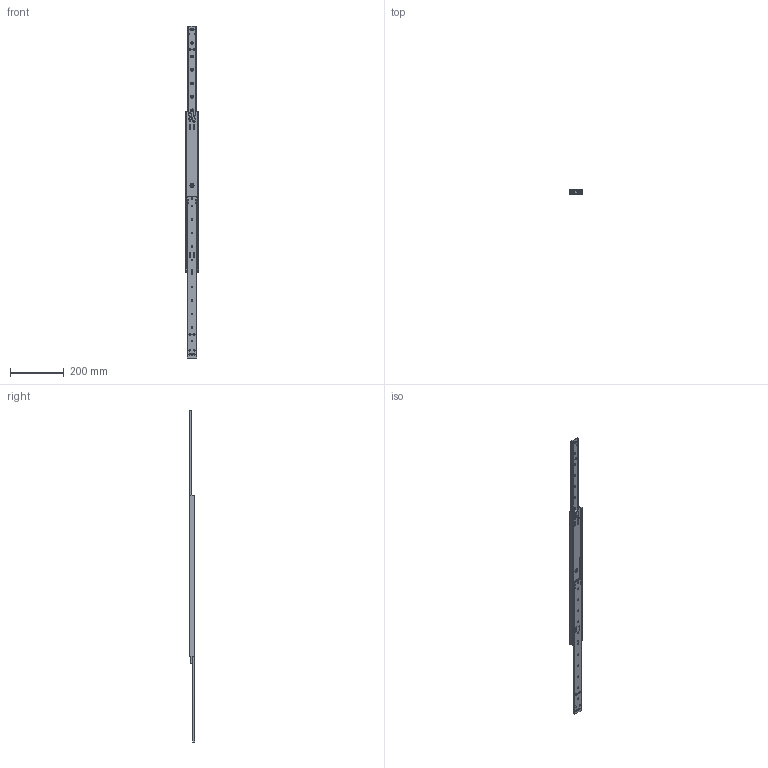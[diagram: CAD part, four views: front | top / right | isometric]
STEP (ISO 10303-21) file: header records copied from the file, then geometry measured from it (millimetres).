
FILE_DESCRIPTION (( 'STEP AP214' ), '1' );
FILE_NAME ('220-600.STEP', '2024-08-20T09:44:45', ( '' ), ( '' ), 'SwSTEP 2.0', 'SolidWorks 2024', '' );
FILE_SCHEMA (( 'AUTOMOTIVE_DESIGN' ));
Length unit declared in the file: millimetre
Products named in the file (13): 61_12278_20_1.STEP_Part156; 61_12282_13.STEP_Part150; 220-600; 61_12284_14_open.STEP_Assem27; 61_12279_14_1.STEP_Part147; 61_12280_14_Beam Assembled - Stop Raises _1.STEP_Part148; 400_000_005_3.STEP_Part158; 301_000_008_Fitted_13.STEP_Part151; 400_000_004_13.STEP_Part155; 61_13331_Pin Fitted_13.STEP_Part149; 61_12274_13.STEP_Part152; 370_002_070_13.STEP_Part153; 61_12276_13.STEP_Part157
Assembly tree (63 placements, depth 3):
  220-600
    61_12284_14_open.STEP_Assem27
      61_12279_14_1.STEP_Part147
      61_12280_14_Beam Assembled - Stop Raises _1.STEP_Part148  x2
      61_13331_Pin Fitted_13.STEP_Part149  x4
      61_12282_13.STEP_Part150
      301_000_008_Fitted_13.STEP_Part151  x2
      61_12274_13.STEP_Part152
      370_002_070_13.STEP_Part153  x2
      400_000_004_13.STEP_Part155  x8
      61_12278_20_1.STEP_Part156  x4
      61_12276_13.STEP_Part157
      400_000_005_3.STEP_Part158  x36
Bounding box: 50.7 x 19.75 x 1230 mm (x, y, z)
Volume: 350264.1 mm3; surface area: 243300.3 mm2
Topology: 62 solids, 62 shells, 1657 faces, 4331 edges, 2664 vertices
Faces by surface type: cylinder 628, sphere 497, plane 313, cone 96, torus 77, bspline 46
Entity records: 31194 total; most frequent: CARTESIAN_POINT 9156, DIRECTION 4818, ORIENTED_EDGE 4390, EDGE_CURVE 2195, AXIS2_PLACEMENT_3D 1969, VERTEX_POINT 1363, CIRCLE 1085, EDGE_LOOP 1004
